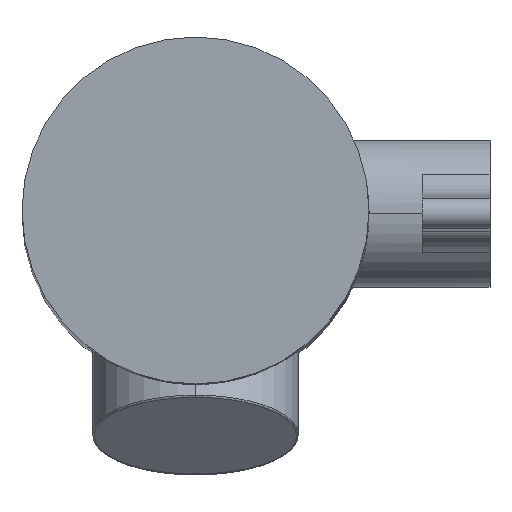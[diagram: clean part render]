
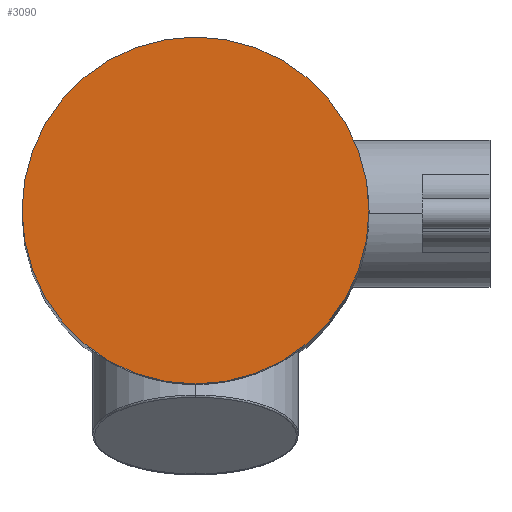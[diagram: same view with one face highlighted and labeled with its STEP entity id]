
A CAD part, top view. The second image highlights one B-rep face of the part: STEP entity #3090.
In plain terms, the highlighted planar face has unit normal (0, 0, 1).
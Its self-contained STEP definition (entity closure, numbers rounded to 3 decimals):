
#31 = EDGE_CURVE ( 'NONE', #2930, #274, #435, .T. ) ;
#185 = CARTESIAN_POINT ( 'NONE',  ( -20.015, 0., 0. ) ) ;
#274 = VERTEX_POINT ( 'NONE', #185 ) ;
#280 = DIRECTION ( 'NONE',  ( 1., 0., 0. ) ) ;
#414 = CARTESIAN_POINT ( 'NONE',  ( 0., 0., 0. ) ) ;
#435 = CIRCLE ( 'NONE', #560, 20.015 ) ;
#560 = AXIS2_PLACEMENT_3D ( 'NONE', #2121, #2659, #280 ) ;
#793 = CARTESIAN_POINT ( 'NONE',  ( 0., 0., 0. ) ) ;
#831 = DIRECTION ( 'NONE',  ( 0., 0., 1. ) ) ;
#856 = CARTESIAN_POINT ( 'NONE',  ( 20.015, 0., 0. ) ) ;
#920 = DIRECTION ( 'NONE',  ( 0., 0., 1. ) ) ;
#1718 = PLANE ( 'NONE',  #2701 ) ;
#1719 = EDGE_LOOP ( 'NONE', ( #1811, #2547 ) ) ;
#1811 = ORIENTED_EDGE ( 'NONE', *, *, #31, .T. ) ;
#1917 = CIRCLE ( 'NONE', #2126, 20.015 ) ;
#2062 = EDGE_CURVE ( 'NONE', #274, #2930, #1917, .T. ) ;
#2121 = CARTESIAN_POINT ( 'NONE',  ( 0., 0., 0. ) ) ;
#2126 = AXIS2_PLACEMENT_3D ( 'NONE', #793, #831, #2679 ) ;
#2247 = DIRECTION ( 'NONE',  ( 1., 0., 0. ) ) ;
#2547 = ORIENTED_EDGE ( 'NONE', *, *, #2062, .T. ) ;
#2659 = DIRECTION ( 'NONE',  ( 0., 0., 1. ) ) ;
#2679 = DIRECTION ( 'NONE',  ( 1., 0., 0. ) ) ;
#2701 = AXIS2_PLACEMENT_3D ( 'NONE', #414, #920, #2247 ) ;
#2930 = VERTEX_POINT ( 'NONE', #856 ) ;
#3041 = FACE_OUTER_BOUND ( 'NONE', #1719, .T. ) ;
#3090 = ADVANCED_FACE ( 'NONE', ( #3041 ), #1718, .T. ) ;
